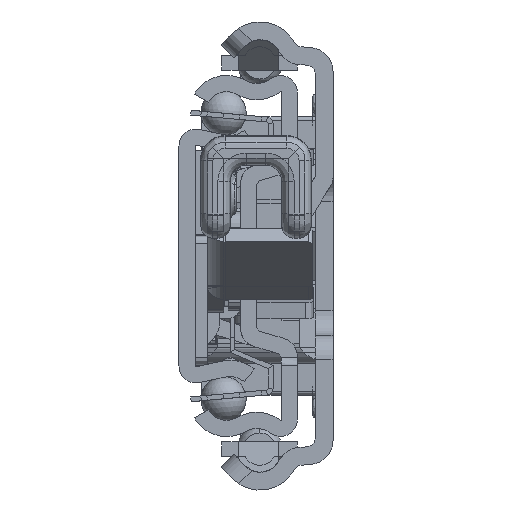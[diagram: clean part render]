
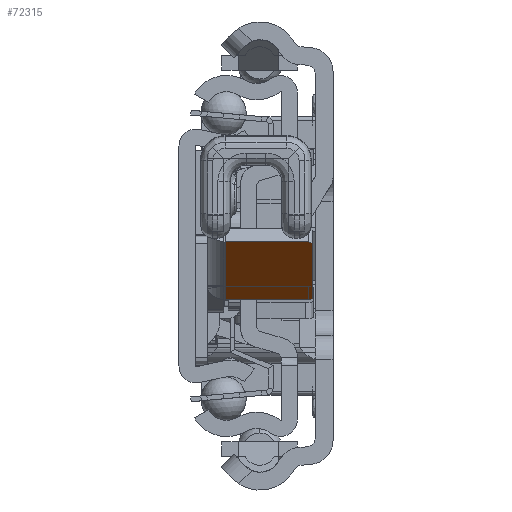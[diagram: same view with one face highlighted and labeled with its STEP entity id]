
A CAD part, left-side view. The second image highlights one B-rep face of the part: STEP entity #72315.
In plain terms, the highlighted planar face has unit normal (-0.595, 0, -0.804) as drawn and (-0.597, -0.802, 0) by its records, which use the part's own axes.
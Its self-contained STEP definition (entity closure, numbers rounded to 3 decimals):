
#71707=DIRECTION('',(0.802,-0.597,0.));
#71708=VECTOR('',#71707,12.);
#71709=CARTESIAN_POINT('',(31.957,-10.314,2.2));
#71710=LINE('',#71709,#71708);
#71735=CARTESIAN_POINT('',(41.184,-17.178,12.5));
#71736=DIRECTION('',(-0.597,-0.802,0.));
#71737=DIRECTION('',(0.802,-0.597,0.));
#71738=AXIS2_PLACEMENT_3D('',#71735,#71736,#71737);
#71740=DIRECTION('',(0.,0.,1.));
#71741=VECTOR('',#71740,10.3);
#71742=CARTESIAN_POINT('',(41.586,-17.476,2.2));
#71743=LINE('',#71742,#71741);
#71744=DIRECTION('',(0.,0.,-1.));
#71745=VECTOR('',#71744,10.3);
#71746=CARTESIAN_POINT('',(31.957,-10.314,12.5));
#71747=LINE('',#71746,#71745);
#71748=CARTESIAN_POINT('',(32.358,-10.613,12.5));
#71749=DIRECTION('',(-0.597,-0.802,0.));
#71750=DIRECTION('',(0.,0.,1.));
#71751=AXIS2_PLACEMENT_3D('',#71748,#71749,#71750);
#71753=DIRECTION('',(-0.802,0.597,0.));
#71754=VECTOR('',#71753,11.);
#71755=CARTESIAN_POINT('',(41.184,-17.178,13.));
#71756=LINE('',#71755,#71754);
#71969=CARTESIAN_POINT('',(31.957,-10.314,2.2));
#71970=CARTESIAN_POINT('',(41.586,-17.476,2.2));
#71971=VERTEX_POINT('',#71969);
#71972=VERTEX_POINT('',#71970);
#72001=CARTESIAN_POINT('',(41.586,-17.476,12.5));
#72002=CARTESIAN_POINT('',(41.184,-17.178,13.));
#72003=VERTEX_POINT('',#72001);
#72004=VERTEX_POINT('',#72002);
#72009=CARTESIAN_POINT('',(32.358,-10.613,13.));
#72010=CARTESIAN_POINT('',(31.957,-10.314,12.5));
#72011=VERTEX_POINT('',#72009);
#72012=VERTEX_POINT('',#72010);
#72297=CARTESIAN_POINT('',(34.726,-12.374,0.));
#72298=DIRECTION('',(-0.597,-0.802,0.));
#72299=DIRECTION('',(0.802,-0.597,0.));
#72300=AXIS2_PLACEMENT_3D('',#72297,#72298,#72299);
#72301=PLANE('',#72300);
#72303=ORIENTED_EDGE('',*,*,#72302,.F.);
#72305=ORIENTED_EDGE('',*,*,#72304,.F.);
#72306=ORIENTED_EDGE('',*,*,#72284,.F.);
#72308=ORIENTED_EDGE('',*,*,#72307,.F.);
#72310=ORIENTED_EDGE('',*,*,#72309,.F.);
#72312=ORIENTED_EDGE('',*,*,#72311,.F.);
#72313=EDGE_LOOP('',(#72303,#72305,#72306,#72308,#72310,#72312));
#72314=FACE_OUTER_BOUND('',#72313,.F.);
#71739=CIRCLE('',#71738,0.5);
#71752=CIRCLE('',#71751,0.5);
#72284=EDGE_CURVE('',#71971,#71972,#71710,.T.);
#72302=EDGE_CURVE('',#72003,#72004,#71739,.T.);
#72304=EDGE_CURVE('',#71972,#72003,#71743,.T.);
#72307=EDGE_CURVE('',#72012,#71971,#71747,.T.);
#72309=EDGE_CURVE('',#72011,#72012,#71752,.T.);
#72311=EDGE_CURVE('',#72004,#72011,#71756,.T.);
#72315=ADVANCED_FACE('',(#72314),#72301,.T.);
